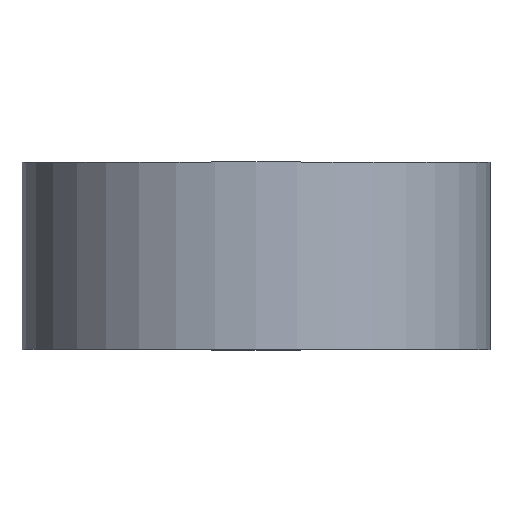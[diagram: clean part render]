
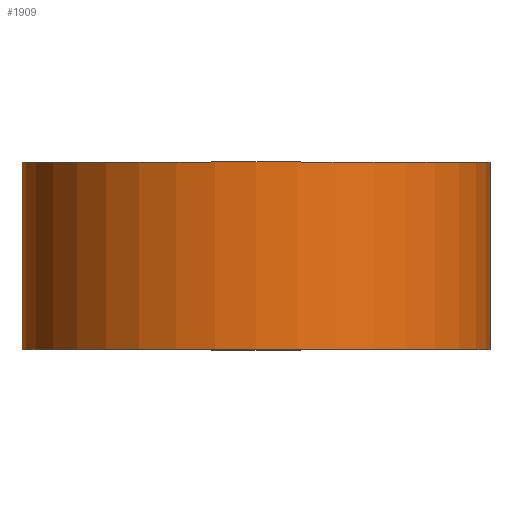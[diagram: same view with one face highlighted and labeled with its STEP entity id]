
A CAD part, top view. The second image highlights one B-rep face of the part: STEP entity #1909.
In plain terms, the highlighted cylindrical face has radius 31.75 mm (diameter 63.5 mm), a full revolution.
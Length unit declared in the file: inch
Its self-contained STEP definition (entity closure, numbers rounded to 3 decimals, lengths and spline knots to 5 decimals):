
#257=FACE_OUTER_BOUND('',#349,.T.);
#349=EDGE_LOOP('',(#1576,#1577,#1578,#1579));
#529=LINE('',#3236,#673);
#673=VECTOR('',#2696,1.25);
#790=CIRCLE('',#2139,1.25);
#791=CIRCLE('',#2140,1.25);
#966=VERTEX_POINT('',#3233);
#967=VERTEX_POINT('',#3235);
#1227=EDGE_CURVE('',#966,#966,#790,.T.);
#1228=EDGE_CURVE('',#966,#967,#529,.T.);
#1229=EDGE_CURVE('',#967,#967,#791,.T.);
#1576=ORIENTED_EDGE('',*,*,#1227,.F.);
#1577=ORIENTED_EDGE('',*,*,#1228,.T.);
#1578=ORIENTED_EDGE('',*,*,#1229,.T.);
#1579=ORIENTED_EDGE('',*,*,#1228,.F.);
#1821=CYLINDRICAL_SURFACE('',#2138,1.25);
#1909=ADVANCED_FACE('',(#257),#1821,.T.);
#2138=AXIS2_PLACEMENT_3D('',#3232,#2692,#2693);
#2139=AXIS2_PLACEMENT_3D('',#3234,#2694,#2695);
#2140=AXIS2_PLACEMENT_3D('',#3237,#2697,#2698);
#2692=DIRECTION('center_axis',(0.,1.,0.));
#2693=DIRECTION('ref_axis',(-1.,0.,0.));
#2694=DIRECTION('center_axis',(0.,1.,0.));
#2695=DIRECTION('ref_axis',(-1.,0.,0.));
#2696=DIRECTION('',(0.,-1.,0.));
#2697=DIRECTION('center_axis',(0.,1.,0.));
#2698=DIRECTION('ref_axis',(-1.,0.,0.));
#3232=CARTESIAN_POINT('Origin',(0.,0.,0.));
#3233=CARTESIAN_POINT('',(1.25,1.,0.));
#3234=CARTESIAN_POINT('Origin',(0.,1.,0.));
#3235=CARTESIAN_POINT('',(1.25,0.,0.));
#3236=CARTESIAN_POINT('',(1.25,0.,0.));
#3237=CARTESIAN_POINT('Origin',(0.,0.,0.));
